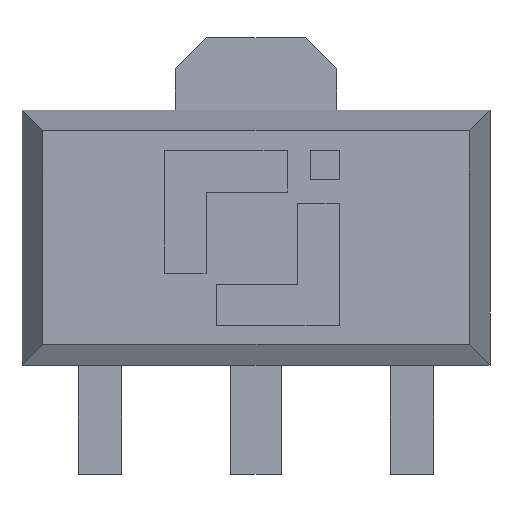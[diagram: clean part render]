
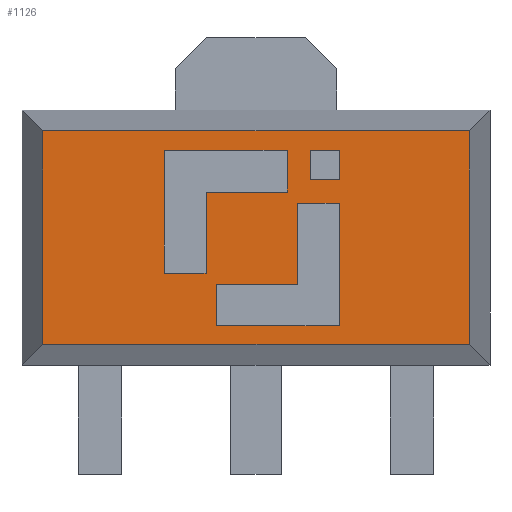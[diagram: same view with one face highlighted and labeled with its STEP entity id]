
A CAD part, top view. The second image highlights one B-rep face of the part: STEP entity #1126.
In plain terms, the highlighted planar face has unit normal (0, 0, 1).
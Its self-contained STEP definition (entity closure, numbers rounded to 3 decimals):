
#953=CARTESIAN_POINT('',(0.,0.,1.5));
#954=DIRECTION('',(0.,0.,1.));
#955=DIRECTION('',(1.,0.,0.));
#956=AXIS2_PLACEMENT_3D('',#953,#954,#955);
#957=PLANE('',#956);
#958=CARTESIAN_POINT('',(0.52,0.558,1.5));
#959=VERTEX_POINT('',#958);
#960=CARTESIAN_POINT('',(0.8,0.558,1.5));
#961=VERTEX_POINT('',#960);
#962=CARTESIAN_POINT('',(0.52,0.558,1.5));
#963=DIRECTION('',(1.,0.,-0.));
#964=VECTOR('',#963,0.28);
#965=LINE('',#962,#964);
#966=EDGE_CURVE('',#959,#961,#965,.T.);
#967=ORIENTED_EDGE('',*,*,#966,.F.);
#968=CARTESIAN_POINT('',(0.52,0.838,1.5));
#969=VERTEX_POINT('',#968);
#970=CARTESIAN_POINT('',(0.52,0.838,1.5));
#971=DIRECTION('',(0.,-1.,0.));
#972=VECTOR('',#971,0.28);
#973=LINE('',#970,#972);
#974=EDGE_CURVE('',#969,#959,#973,.T.);
#975=ORIENTED_EDGE('',*,*,#974,.F.);
#976=CARTESIAN_POINT('',(0.8,0.838,1.5));
#977=VERTEX_POINT('',#976);
#978=CARTESIAN_POINT('',(0.8,0.838,1.5));
#979=DIRECTION('',(-1.,0.,0.));
#980=VECTOR('',#979,0.28);
#981=LINE('',#978,#980);
#982=EDGE_CURVE('',#977,#969,#981,.T.);
#983=ORIENTED_EDGE('',*,*,#982,.F.);
#984=CARTESIAN_POINT('',(0.8,0.558,1.5));
#985=DIRECTION('',(0.,1.,0.));
#986=VECTOR('',#985,0.28);
#987=LINE('',#984,#986);
#988=EDGE_CURVE('',#961,#977,#987,.T.);
#989=ORIENTED_EDGE('',*,*,#988,.F.);
#990=EDGE_LOOP('',(#967,#975,#983,#989));
#991=FACE_BOUND('',#990,.T.);
#992=CARTESIAN_POINT('',(2.05,-1.025,1.5));
#993=VERTEX_POINT('',#992);
#994=CARTESIAN_POINT('',(2.05,1.025,1.5));
#995=VERTEX_POINT('',#994);
#996=CARTESIAN_POINT('',(2.05,-1.025,1.5));
#997=DIRECTION('',(-0.,1.,0.));
#998=VECTOR('',#997,2.05);
#999=LINE('',#996,#998);
#1000=EDGE_CURVE('',#993,#995,#999,.T.);
#1001=ORIENTED_EDGE('',*,*,#1000,.T.);
#1002=CARTESIAN_POINT('',(-2.05,1.025,1.5));
#1003=VERTEX_POINT('',#1002);
#1004=CARTESIAN_POINT('',(2.05,1.025,1.5));
#1005=DIRECTION('',(-1.,-0.,0.));
#1006=VECTOR('',#1005,4.1);
#1007=LINE('',#1004,#1006);
#1008=EDGE_CURVE('',#995,#1003,#1007,.T.);
#1009=ORIENTED_EDGE('',*,*,#1008,.T.);
#1010=CARTESIAN_POINT('',(-2.05,-1.025,1.5));
#1011=VERTEX_POINT('',#1010);
#1012=CARTESIAN_POINT('',(-2.05,1.025,1.5));
#1013=DIRECTION('',(0.,-1.,0.));
#1014=VECTOR('',#1013,2.05);
#1015=LINE('',#1012,#1014);
#1016=EDGE_CURVE('',#1003,#1011,#1015,.T.);
#1017=ORIENTED_EDGE('',*,*,#1016,.T.);
#1018=CARTESIAN_POINT('',(-2.05,-1.025,1.5));
#1019=DIRECTION('',(1.,0.,0.));
#1020=VECTOR('',#1019,4.1);
#1021=LINE('',#1018,#1020);
#1022=EDGE_CURVE('',#1011,#993,#1021,.T.);
#1023=ORIENTED_EDGE('',*,*,#1022,.T.);
#1024=EDGE_LOOP('',(#1001,#1009,#1017,#1023));
#1025=FACE_BOUND('',#1024,.T.);
#1026=CARTESIAN_POINT('',(0.4,0.33,1.5));
#1027=VERTEX_POINT('',#1026);
#1028=CARTESIAN_POINT('',(0.8,0.33,1.5));
#1029=VERTEX_POINT('',#1028);
#1030=CARTESIAN_POINT('',(0.4,0.33,1.5));
#1031=DIRECTION('',(1.,0.,-0.));
#1032=VECTOR('',#1031,0.4);
#1033=LINE('',#1030,#1032);
#1034=EDGE_CURVE('',#1027,#1029,#1033,.T.);
#1035=ORIENTED_EDGE('',*,*,#1034,.T.);
#1036=CARTESIAN_POINT('',(0.8,-0.85,1.5));
#1037=VERTEX_POINT('',#1036);
#1038=CARTESIAN_POINT('',(0.8,0.33,1.5));
#1039=DIRECTION('',(0.,-1.,0.));
#1040=VECTOR('',#1039,1.18);
#1041=LINE('',#1038,#1040);
#1042=EDGE_CURVE('',#1029,#1037,#1041,.T.);
#1043=ORIENTED_EDGE('',*,*,#1042,.T.);
#1044=CARTESIAN_POINT('',(-0.38,-0.85,1.5));
#1045=VERTEX_POINT('',#1044);
#1046=CARTESIAN_POINT('',(0.8,-0.85,1.5));
#1047=DIRECTION('',(-1.,0.,0.));
#1048=VECTOR('',#1047,1.18);
#1049=LINE('',#1046,#1048);
#1050=EDGE_CURVE('',#1037,#1045,#1049,.T.);
#1051=ORIENTED_EDGE('',*,*,#1050,.T.);
#1052=CARTESIAN_POINT('',(-0.38,-0.45,1.5));
#1053=VERTEX_POINT('',#1052);
#1054=CARTESIAN_POINT('',(-0.38,-0.85,1.5));
#1055=DIRECTION('',(0.,1.,0.));
#1056=VECTOR('',#1055,0.4);
#1057=LINE('',#1054,#1056);
#1058=EDGE_CURVE('',#1045,#1053,#1057,.T.);
#1059=ORIENTED_EDGE('',*,*,#1058,.T.);
#1060=CARTESIAN_POINT('',(0.4,-0.45,1.5));
#1061=VERTEX_POINT('',#1060);
#1062=CARTESIAN_POINT('',(-0.38,-0.45,1.5));
#1063=DIRECTION('',(1.,0.,-0.));
#1064=VECTOR('',#1063,0.78);
#1065=LINE('',#1062,#1064);
#1066=EDGE_CURVE('',#1053,#1061,#1065,.T.);
#1067=ORIENTED_EDGE('',*,*,#1066,.T.);
#1068=CARTESIAN_POINT('',(0.4,-0.45,1.5));
#1069=DIRECTION('',(0.,1.,0.));
#1070=VECTOR('',#1069,0.78);
#1071=LINE('',#1068,#1070);
#1072=EDGE_CURVE('',#1061,#1027,#1071,.T.);
#1073=ORIENTED_EDGE('',*,*,#1072,.T.);
#1074=EDGE_LOOP('',(#1035,#1043,#1051,#1059,#1067,#1073));
#1075=FACE_BOUND('',#1074,.T.);
#1076=CARTESIAN_POINT('',(-0.881,0.838,1.5));
#1077=VERTEX_POINT('',#1076);
#1078=CARTESIAN_POINT('',(0.299,0.838,1.5));
#1079=VERTEX_POINT('',#1078);
#1080=CARTESIAN_POINT('',(-0.881,0.838,1.5));
#1081=DIRECTION('',(1.,0.,0.));
#1082=VECTOR('',#1081,1.18);
#1083=LINE('',#1080,#1082);
#1084=EDGE_CURVE('',#1077,#1079,#1083,.T.);
#1085=ORIENTED_EDGE('',*,*,#1084,.T.);
#1086=CARTESIAN_POINT('',(0.299,0.438,1.5));
#1087=VERTEX_POINT('',#1086);
#1088=CARTESIAN_POINT('',(0.299,0.838,1.5));
#1089=DIRECTION('',(0.,-1.,0.));
#1090=VECTOR('',#1089,0.4);
#1091=LINE('',#1088,#1090);
#1092=EDGE_CURVE('',#1079,#1087,#1091,.T.);
#1093=ORIENTED_EDGE('',*,*,#1092,.T.);
#1094=CARTESIAN_POINT('',(-0.481,0.438,1.5));
#1095=VERTEX_POINT('',#1094);
#1096=CARTESIAN_POINT('',(0.299,0.438,1.5));
#1097=DIRECTION('',(-1.,-0.,0.));
#1098=VECTOR('',#1097,0.78);
#1099=LINE('',#1096,#1098);
#1100=EDGE_CURVE('',#1087,#1095,#1099,.T.);
#1101=ORIENTED_EDGE('',*,*,#1100,.T.);
#1102=CARTESIAN_POINT('',(-0.481,-0.342,1.5));
#1103=VERTEX_POINT('',#1102);
#1104=CARTESIAN_POINT('',(-0.481,0.438,1.5));
#1105=DIRECTION('',(0.,-1.,0.));
#1106=VECTOR('',#1105,0.78);
#1107=LINE('',#1104,#1106);
#1108=EDGE_CURVE('',#1095,#1103,#1107,.T.);
#1109=ORIENTED_EDGE('',*,*,#1108,.T.);
#1110=CARTESIAN_POINT('',(-0.881,-0.342,1.5));
#1111=VERTEX_POINT('',#1110);
#1112=CARTESIAN_POINT('',(-0.481,-0.342,1.5));
#1113=DIRECTION('',(-1.,0.,0.));
#1114=VECTOR('',#1113,0.4);
#1115=LINE('',#1112,#1114);
#1116=EDGE_CURVE('',#1103,#1111,#1115,.T.);
#1117=ORIENTED_EDGE('',*,*,#1116,.T.);
#1118=CARTESIAN_POINT('',(-0.881,-0.342,1.5));
#1119=DIRECTION('',(-0.,1.,0.));
#1120=VECTOR('',#1119,1.18);
#1121=LINE('',#1118,#1120);
#1122=EDGE_CURVE('',#1111,#1077,#1121,.T.);
#1123=ORIENTED_EDGE('',*,*,#1122,.T.);
#1124=EDGE_LOOP('',(#1085,#1093,#1101,#1109,#1117,#1123));
#1125=FACE_BOUND('',#1124,.T.);
#1126=ADVANCED_FACE('',(#991,#1025,#1075,#1125),#957,.T.);
